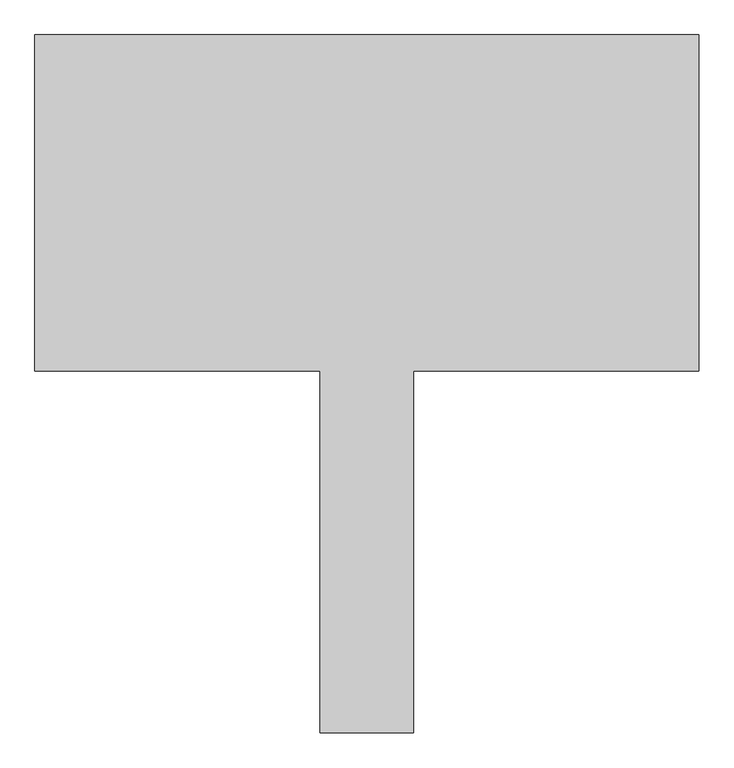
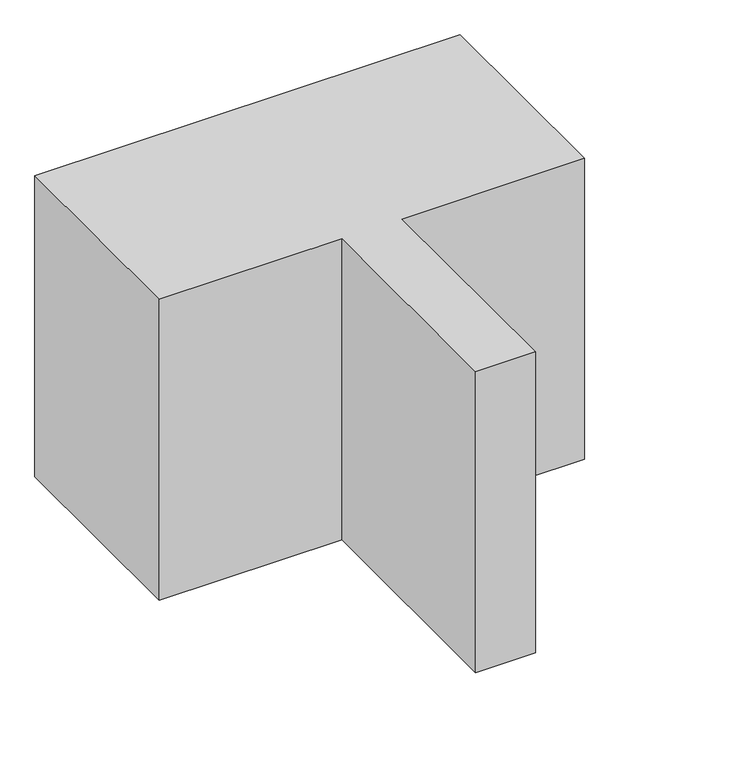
"""IFC4 building model written with IfcOpenShell, lengths in millimetres: proxy geometry."""

from ifc_helpers import new_model, si_unit, origin, origin_with_axes, place, context, project, spatial, polyline, outline, extrude, source, transform, mapped, element, save


def generic_models_b9ee51d9(model_context):
    return source(origin(), model_context, "Body", "SweptSolid", [
        extrude(outline(polyline([(-32292.9988284, -12900.7903364), (-32292.9988284, -15020.7903364), (-34092.9988284, -15020.7903364), (-34092.9988284, -17300.7903364), (-34679.9987968, -17300.7903364), (-34679.9987968, -15020.7903364), (-36479.9987968, -15020.7903364), (-36479.9987968, -12900.7903364), (-32292.9988284, -12900.7903364)])), origin_with_axes(), (0.0, 0.0, 1.0), 3130.0),
    ])


if __name__ == "__main__":
    model = new_model("IFC4")
    model_context = context("Model", 3, world=origin())
    ifc_project = project(units=[si_unit("LENGTHUNIT", "METRE", prefix="MILLI")], contexts=[model_context])
    site = spatial("IfcSite", under=ifc_project)
    building = spatial("IfcBuilding", under=site)
    placement = place(None, origin())
    generic_models_shape = generic_models_b9ee51d9(model_context)
    element("IfcBuildingElementProxy", 1, Name="Generic Models", at=placement, inside=building, context=model_context, shape_type="MappedRepresentation", body=[
        mapped(generic_models_shape, transform((0.0, 0.0, 0.0), x_axis=(1.0, 0.0, 0.0), y_axis=(0.0, 1.0, 0.0), z_axis=(0.0, 0.0, 1.0))),
    ])
    save(model, "model.ifc")
